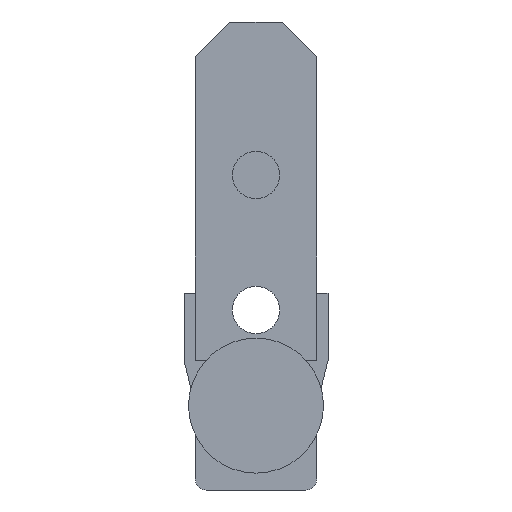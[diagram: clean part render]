
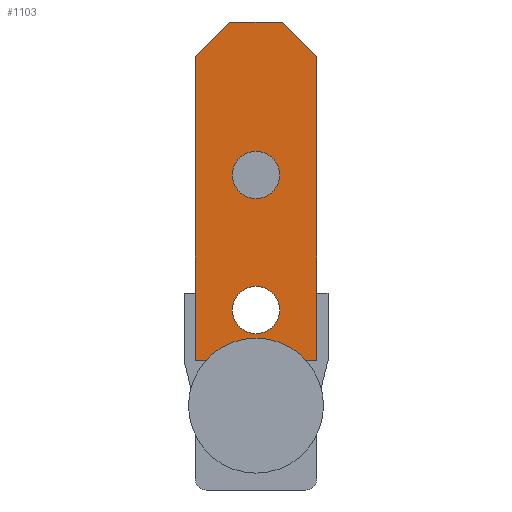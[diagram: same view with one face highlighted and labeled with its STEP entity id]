
A CAD part, front view. The second image highlights one B-rep face of the part: STEP entity #1103.
In plain terms, the highlighted planar face has unit normal (0, -1, 0).
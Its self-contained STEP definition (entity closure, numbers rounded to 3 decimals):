
#2 = AXIS2_PLACEMENT_3D ( 'NONE', #654, #653, #983 ) ;
#3 = AXIS2_PLACEMENT_3D ( 'NONE', #660, #658, #657 ) ;
#28 = PLANE ( 'NONE',  #1080 ) ;
#29 = CARTESIAN_POINT ( 'NONE',  ( 4.4, -3.5, -15. ) ) ;
#30 = DIRECTION ( 'NONE',  ( 0., 1., 0. ) ) ;
#31 = DIRECTION ( 'NONE',  ( 0., 0., 1. ) ) ;
#80 = EDGE_CURVE ( 'NONE', #760, #736, #342, .T. ) ;
#82 = EDGE_CURVE ( 'NONE', #736, #746, #346, .T. ) ;
#83 = EDGE_CURVE ( 'NONE', #746, #779, #348, .T. ) ;
#85 = EDGE_CURVE ( 'NONE', #779, #754, #352, .T. ) ;
#88 = EDGE_CURVE ( 'NONE', #754, #761, #358, .T. ) ;
#90 = EDGE_CURVE ( 'NONE', #761, #743, #362, .T. ) ;
#92 = EDGE_CURVE ( 'NONE', #743, #762, #366, .T. ) ;
#94 = EDGE_CURVE ( 'NONE', #762, #760, #370, .T. ) ;
#108 = EDGE_CURVE ( 'NONE', #781, #777, #394, .T. ) ;
#109 = EDGE_CURVE ( 'NONE', #770, #732, #395, .T. ) ;
#123 = EDGE_CURVE ( 'NONE', #732, #770, #416, .T. ) ;
#127 = EDGE_CURVE ( 'NONE', #777, #781, #422, .T. ) ;
#224 = ORIENTED_EDGE ( 'NONE', *, *, #94, .T. ) ;
#225 = ORIENTED_EDGE ( 'NONE', *, *, #80, .T. ) ;
#226 = ORIENTED_EDGE ( 'NONE', *, *, #82, .T. ) ;
#227 = ORIENTED_EDGE ( 'NONE', *, *, #83, .T. ) ;
#228 = ORIENTED_EDGE ( 'NONE', *, *, #85, .T. ) ;
#229 = ORIENTED_EDGE ( 'NONE', *, *, #88, .T. ) ;
#230 = ORIENTED_EDGE ( 'NONE', *, *, #90, .T. ) ;
#231 = ORIENTED_EDGE ( 'NONE', *, *, #92, .T. ) ;
#232 = ORIENTED_EDGE ( 'NONE', *, *, #127, .F. ) ;
#233 = ORIENTED_EDGE ( 'NONE', *, *, #108, .F. ) ;
#290 = EDGE_LOOP ( 'NONE', ( #232, #233 ) ) ;
#291 = EDGE_LOOP ( 'NONE', ( #224, #225, #226, #227, #228, #229, #230, #231 ) ) ;
#292 = EDGE_LOOP ( 'NONE', ( #318, #317 ) ) ;
#317 = ORIENTED_EDGE ( 'NONE', *, *, #109, .F. ) ;
#318 = ORIENTED_EDGE ( 'NONE', *, *, #123, .F. ) ;
#342 = LINE ( 'NONE', #717, #343 ) ;
#343 = VECTOR ( 'NONE', #714, 1000. ) ;
#346 = LINE ( 'NONE', #703, #347 ) ;
#347 = VECTOR ( 'NONE', #700, 1000. ) ;
#348 = LINE ( 'NONE', #694, #349 ) ;
#349 = VECTOR ( 'NONE', #690, 1000. ) ;
#352 = LINE ( 'NONE', #680, #353 ) ;
#353 = VECTOR ( 'NONE', #677, 1000. ) ;
#358 = LINE ( 'NONE', #721, #359 ) ;
#359 = VECTOR ( 'NONE', #719, 1000. ) ;
#362 = LINE ( 'NONE', #715, #363 ) ;
#363 = VECTOR ( 'NONE', #713, 1000. ) ;
#366 = LINE ( 'NONE', #709, #367 ) ;
#367 = VECTOR ( 'NONE', #708, 1000. ) ;
#370 = LINE ( 'NONE', #704, #371 ) ;
#371 = VECTOR ( 'NONE', #702, 1000. ) ;
#394 = CIRCLE ( 'NONE', #3, 2.1 ) ;
#395 = CIRCLE ( 'NONE', #2, 2.1 ) ;
#416 = CIRCLE ( 'NONE', #897, 2.1 ) ;
#422 = CIRCLE ( 'NONE', #1041, 2.1 ) ;
#532 = FACE_BOUND ( 'NONE', #292, .T. ) ;
#533 = FACE_OUTER_BOUND ( 'NONE', #291, .T. ) ;
#534 = FACE_BOUND ( 'NONE', #290, .T. ) ;
#594 = CARTESIAN_POINT ( 'NONE',  ( -5.4, -3.5, -4.5 ) ) ;
#599 = CARTESIAN_POINT ( 'NONE',  ( 0., -3.5, 14.1 ) ) ;
#619 = CARTESIAN_POINT ( 'NONE',  ( 0., -3.5, 2.1 ) ) ;
#632 = CARTESIAN_POINT ( 'NONE',  ( 0., -3.5, 9.9 ) ) ;
#635 = CARTESIAN_POINT ( 'NONE',  ( 5.4, -3.5, -4.5 ) ) ;
#643 = CARTESIAN_POINT ( 'NONE',  ( -5.4, -3.5, 22.55 ) ) ;
#644 = CARTESIAN_POINT ( 'NONE',  ( 2.35, -3.5, 25.6 ) ) ;
#645 = CARTESIAN_POINT ( 'NONE',  ( -5.4, -3.5, 1.5 ) ) ;
#646 = CARTESIAN_POINT ( 'NONE',  ( -2.35, -3.5, 25.6 ) ) ;
#652 = CARTESIAN_POINT ( 'NONE',  ( 5.4, -3.5, 22.55 ) ) ;
#653 = DIRECTION ( 'NONE',  ( 0., -1., 0. ) ) ;
#654 = CARTESIAN_POINT ( 'NONE',  ( 0., -3.5, 12. ) ) ;
#657 = DIRECTION ( 'NONE',  ( 0., 0., 1. ) ) ;
#658 = DIRECTION ( 'NONE',  ( 0., -1., 0. ) ) ;
#660 = CARTESIAN_POINT ( 'NONE',  ( 0., -3.5, 0. ) ) ;
#677 = DIRECTION ( 'NONE',  ( 0., 0., 1. ) ) ;
#680 = CARTESIAN_POINT ( 'NONE',  ( 5.4, -3.5, -4.5 ) ) ;
#690 = DIRECTION ( 'NONE',  ( 0., 0., 1. ) ) ;
#694 = CARTESIAN_POINT ( 'NONE',  ( 5.4, -3.5, -4.5 ) ) ;
#700 = DIRECTION ( 'NONE',  ( 1., 0., 0. ) ) ;
#702 = DIRECTION ( 'NONE',  ( 0., 0., -1. ) ) ;
#703 = CARTESIAN_POINT ( 'NONE',  ( -5.4, -3.5, -4.5 ) ) ;
#704 = CARTESIAN_POINT ( 'NONE',  ( -5.4, -3.5, 22.55 ) ) ;
#708 = DIRECTION ( 'NONE',  ( -0.707, 0., -0.707 ) ) ;
#709 = CARTESIAN_POINT ( 'NONE',  ( -2.35, -3.5, 25.6 ) ) ;
#713 = DIRECTION ( 'NONE',  ( -1., 0., 0. ) ) ;
#714 = DIRECTION ( 'NONE',  ( 0., 0., -1. ) ) ;
#715 = CARTESIAN_POINT ( 'NONE',  ( 2.35, -3.5, 25.6 ) ) ;
#717 = CARTESIAN_POINT ( 'NONE',  ( -5.4, -3.5, 22.55 ) ) ;
#719 = DIRECTION ( 'NONE',  ( -0.707, 0., 0.707 ) ) ;
#721 = CARTESIAN_POINT ( 'NONE',  ( 5.4, -3.5, 22.55 ) ) ;
#732 = VERTEX_POINT ( 'NONE', #599 ) ;
#736 = VERTEX_POINT ( 'NONE', #594 ) ;
#743 = VERTEX_POINT ( 'NONE', #646 ) ;
#746 = VERTEX_POINT ( 'NONE', #635 ) ;
#754 = VERTEX_POINT ( 'NONE', #652 ) ;
#760 = VERTEX_POINT ( 'NONE', #645 ) ;
#761 = VERTEX_POINT ( 'NONE', #644 ) ;
#762 = VERTEX_POINT ( 'NONE', #643 ) ;
#770 = VERTEX_POINT ( 'NONE', #632 ) ;
#777 = VERTEX_POINT ( 'NONE', #619 ) ;
#779 = VERTEX_POINT ( 'NONE', #899 ) ;
#781 = VERTEX_POINT ( 'NONE', #905 ) ;
#897 = AXIS2_PLACEMENT_3D ( 'NONE', #982, #981, #980 ) ;
#899 = CARTESIAN_POINT ( 'NONE',  ( 5.4, -3.5, 1.5 ) ) ;
#905 = CARTESIAN_POINT ( 'NONE',  ( 0., -3.5, -2.1 ) ) ;
#960 = DIRECTION ( 'NONE',  ( 0., 0., 1. ) ) ;
#961 = DIRECTION ( 'NONE',  ( 0., -1., 0. ) ) ;
#962 = CARTESIAN_POINT ( 'NONE',  ( 0., -3.5, 0. ) ) ;
#980 = DIRECTION ( 'NONE',  ( 0., 0., 1. ) ) ;
#981 = DIRECTION ( 'NONE',  ( 0., -1., 0. ) ) ;
#982 = CARTESIAN_POINT ( 'NONE',  ( 0., -3.5, 12. ) ) ;
#983 = DIRECTION ( 'NONE',  ( 0., 0., 1. ) ) ;
#1041 = AXIS2_PLACEMENT_3D ( 'NONE', #962, #961, #960 ) ;
#1080 = AXIS2_PLACEMENT_3D ( 'NONE', #29, #30, #31 ) ;
#1103 = ADVANCED_FACE ( 'NONE', ( #532, #533, #534 ), #28, .F. ) ;
